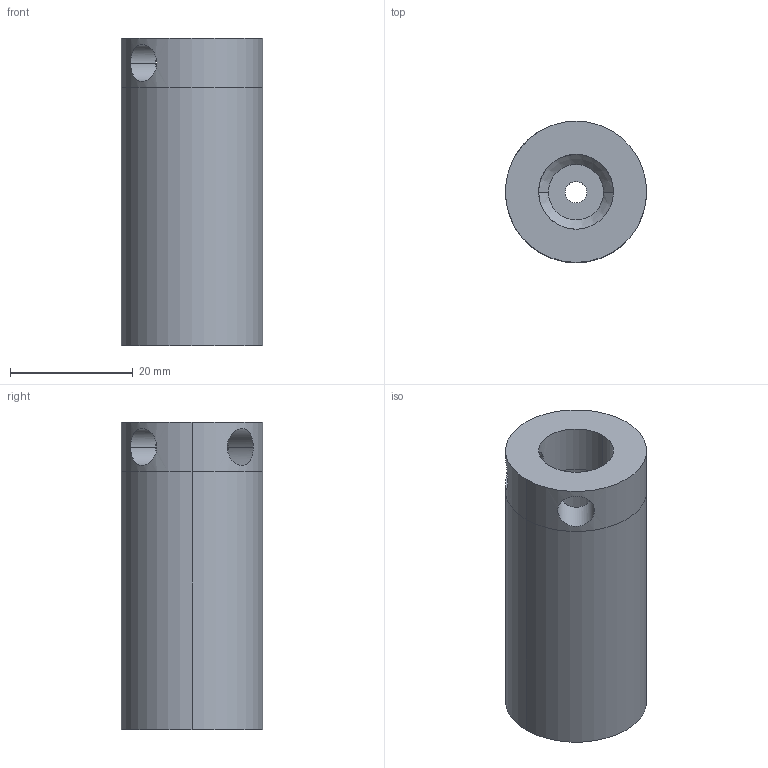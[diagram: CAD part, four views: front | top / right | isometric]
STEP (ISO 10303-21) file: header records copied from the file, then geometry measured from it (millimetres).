
FILE_DESCRIPTION(/* description */ (''),/* implementation_level */ '2;1');
FILE_NAME(/* name */ '3d_usn13-50_06263_r00.stp',/* time_stamp */ '2011-01-10T14:08:53+09:00',/* author */ ('MISUMI'),/* organization */ (''),/* preprocessor_version */ 'ST-DEVELOPER v11',/* originating_system */ 'UGS - NX 5.0',/* authorisation */ '');
FILE_SCHEMA (('CONFIG_CONTROL_DESIGN'));
Length unit declared in the file: millimetre
Products named in the file (1): 3d_usn13-50_06263_r00
Bounding box: 23 x 23 x 50 mm (x, y, z)
Volume: 14765.3 mm3; surface area: 6341.3 mm2
Topology: 1 solids, 1 shells, 20 faces, 44 edges, 28 vertices
Faces by surface type: cylinder 14, plane 4, cone 2
Entity records: 878 total; most frequent: CARTESIAN_POINT 333, DIRECTION 98, ORIENTED_EDGE 88, EDGE_CURVE 44, AXIS2_PLACEMENT_3D 41, EDGE_LOOP 28, VERTEX_POINT 28, ADVANCED_FACE 20
